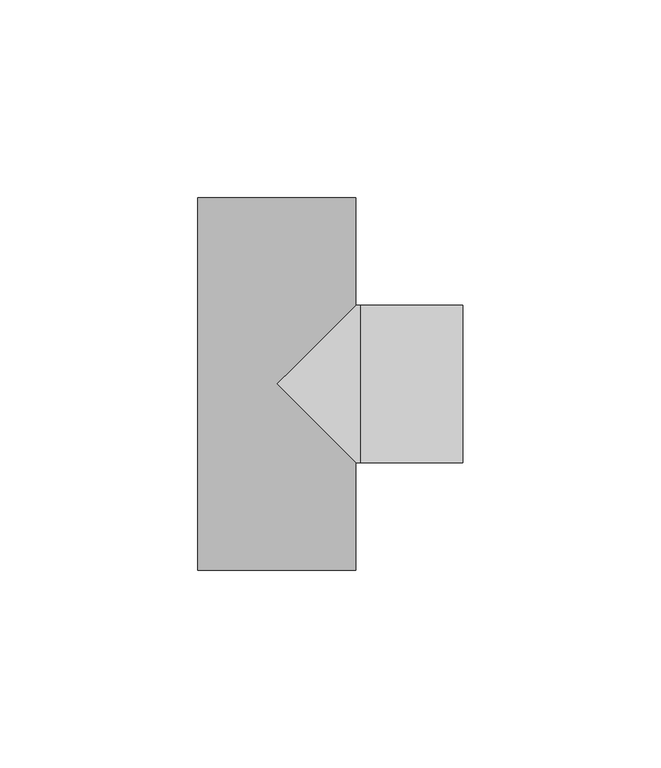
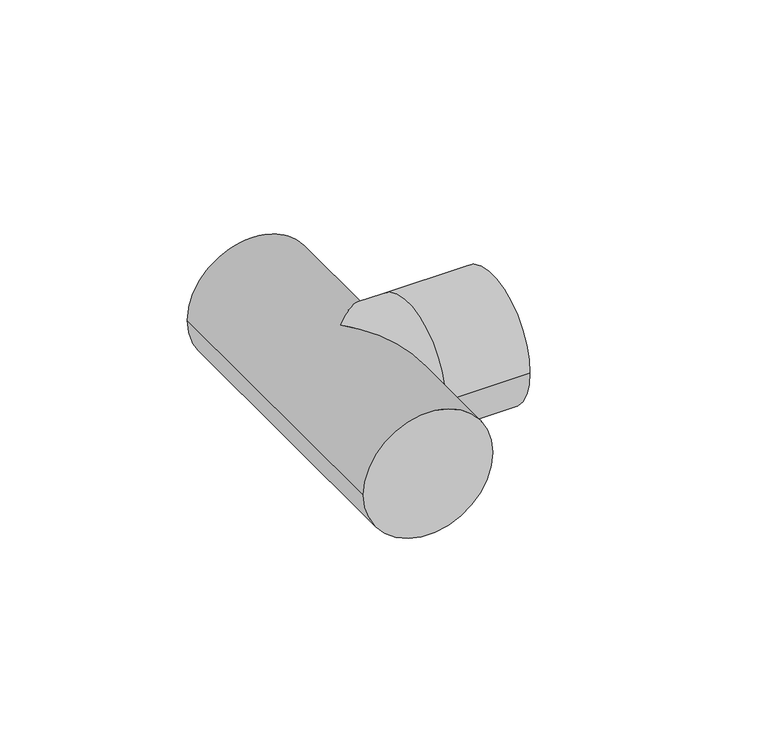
"""IFC4 building model written with IfcOpenShell, lengths in millimetres: pipe fitting geometry, 01051003 : Tés à 90º."""

from ifc_helpers import new_model, si_unit, frame, origin, place, context, project, spatial, circle_curve, ellipse_curve, source, transform, mapped, element, save
from ifc_brep_helpers import plane_surface, cylinder_surface, advanced_brep


def pipe_fitting_c650489b(model_context):
    return source(origin(), model_context, "Body", "AdvancedBrep", [
        advanced_brep(
        [(-19.95, 47.0, 0.0), (19.95, 47.0, 0.0), (-19.95, -47.0, 0.0), (19.95, -47.0, 0.0), (19.95, -19.95, 0.0), (0.0, 0.0, 19.95), (19.95, 19.95, 0.0), (0.0, 0.0, -19.95), (47.0, 19.95, 0.0), (47.0, -19.95, 0.0), (21.0, -19.95, 0.0), (21.0, 19.95, 0.0)],
        [
            (0, 1, circle_curve(frame((0.0, 47.0, 0.0), z_axis=(0.0, 1.0, 0.0), x_axis=(1.0, 0.0, 0.0)), 19.95)),
            (1, 0, circle_curve(frame((0.0, 47.0, 0.0), z_axis=(0.0, 1.0, 0.0), x_axis=(1.0, 0.0, 0.0)), 19.95)),
            (2, 3, circle_curve(frame((0.0, -47.0, 0.0), z_axis=(0.0, -1.0, 0.0), x_axis=(1.0, 0.0, 0.0)), 19.95)),
            (3, 2, circle_curve(frame((0.0, -47.0, 0.0), z_axis=(0.0, -1.0, 0.0), x_axis=(1.0, 0.0, 0.0)), 19.95)),
            (0, 2),
            (3, 4),
            (4, 5, ellipse_curve(frame((0.0, 0.0, 0.0), z_axis=(-0.7071067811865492, -0.7071067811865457, 0.0), x_axis=(-0.7071067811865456, 0.7071067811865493, 0.0)), 28.2135606, 19.95)),
            (5, 6, ellipse_curve(frame((0.0, 0.0, 0.0), z_axis=(-0.7071067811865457, 0.7071067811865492, 0.0), x_axis=(0.7071067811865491, 0.7071067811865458, 0.0)), 28.2135606, 19.95)),
            (6, 1),
            (6, 7, ellipse_curve(frame((0.0, 0.0, 0.0), z_axis=(-0.7071067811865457, 0.7071067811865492, 0.0), x_axis=(0.7071067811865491, 0.7071067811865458, 0.0)), 28.2135606, 19.95)),
            (7, 4, ellipse_curve(frame((0.0, 0.0, 0.0), z_axis=(-0.7071067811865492, -0.7071067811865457, 0.0), x_axis=(-0.7071067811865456, 0.7071067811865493, 0.0)), 28.2135606, 19.95)),
            (8, 9, circle_curve(frame((47.0, 0.0, 0.0), z_axis=(1.0, 0.0, 0.0), x_axis=(0.0, -1.0, 0.0)), 19.95)),
            (9, 8, circle_curve(frame((47.0, 0.0, 0.0), z_axis=(1.0, 0.0, 0.0), x_axis=(0.0, -1.0, 0.0)), 19.95)),
            (10, 11, circle_curve(frame((21.0, 0.0, 0.0), z_axis=(-1.0, 0.0, 0.0), x_axis=(0.0, -1.0, 0.0)), 19.95)),
            (11, 6),
            (4, 10),
            (11, 10, circle_curve(frame((21.0, 0.0, 0.0), z_axis=(-1.0, 0.0, 0.0), x_axis=(0.0, -1.0, 0.0)), 19.95)),
            (8, 11),
            (10, 9),
        ],
        [
            plane_surface(frame((0.0, 47.0, 0.0), z_axis=(0.0, 1.0, 0.0), x_axis=(0.0, 0.0, 1.0))),
            plane_surface(frame((0.0, -47.0, 0.0), z_axis=(0.0, -1.0, 0.0), x_axis=(0.0, 0.0, 1.0))),
            cylinder_surface(frame((0.0, 47.0, 0.0), z_axis=(0.0, 1.0, 0.0), x_axis=(1.0, 0.0, 0.0)), 19.95),
            plane_surface(frame((47.0, 0.0, 0.0), z_axis=(1.0, 0.0, 0.0), x_axis=(0.0, 0.0, 1.0))),
            cylinder_surface(frame((21.0, 0.0, 0.0), z_axis=(1.0, 0.0, 0.0), x_axis=(0.0, -1.0, 0.0)), 19.95),
            cylinder_surface(frame((47.0, 0.0, 0.0), z_axis=(1.0, 0.0, 0.0), x_axis=(0.0, -1.0, 0.0)), 19.95),
        ],
        [
            (0, [[1, 2]]),
            (1, [[3, 4]]),
            (2, [[-1, 5, -4, 6, 7, 8, 9]]),
            (2, [[-2, -9, 10, 11, -6, -3, -5]]),
            (3, [[12, 13]]),
            (4, [[14, 15, -8, -7, 16]]),
            (4, [[17, -16, -11, -10, -15]]),
            (5, [[-12, 18, -14, 19]]),
            (5, [[-13, -19, -17, -18]]),
        ],
    ),
    ])


if __name__ == "__main__":
    model = new_model("IFC4")
    model_context = context("Model", 3, world=origin())
    ifc_project = project(units=[si_unit("LENGTHUNIT", "METRE", prefix="MILLI")], contexts=[model_context])
    site = spatial("IfcSite", under=ifc_project)
    building = spatial("IfcBuilding", under=site)
    placement = place(None, origin())
    pipe_fitting_shape = pipe_fitting_c650489b(model_context)
    element("IfcPipeFitting", 1, ObjectType="01051003 : Tés à 90º", at=placement, inside=building, context=model_context, shape_type="MappedRepresentation", body=[
        mapped(pipe_fitting_shape, transform((0.0, 0.0, 0.0), x_axis=(1.0, 0.0, 0.0), y_axis=(0.0, 1.0, 0.0), z_axis=(0.0, 0.0, 1.0))),
    ])
    save(model, "model.ifc")
